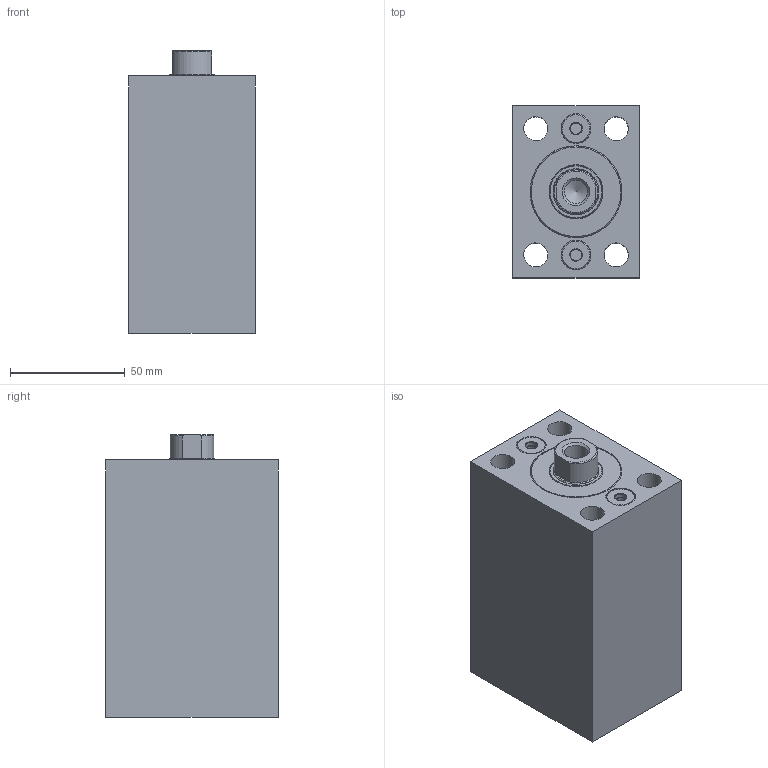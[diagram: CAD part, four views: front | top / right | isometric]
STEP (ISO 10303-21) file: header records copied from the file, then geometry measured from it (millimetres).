
FILE_DESCRIPTION( ( 'STEP AP203' ), '1' );
FILE_NAME( 'C:/Users/SAYKO.ltd/Desktop/SBZ100/07/SBZ100-32/SBZ100.32__FORM_07_STROKE_40__H2_47_POS_0_.stp', ' ', ( ' ' ), ( ' ' ), 'PSStep 15.0.47', 'PARTsolutions', ' ' );
FILE_SCHEMA( ( 'CONFIG_CONTROL_DESIGN' ) );
Length unit declared in the file: millimetre
Products named in the file (5): SBZ100.32  FORM=07 STROKE=40 (H2=47 POS=0); HI_SBZ10032  FORM=07 STROKE=40 H2=47 -C; HI_SBZ10032  FORM=07 STROKE=40-R; HI_SBZ100.32-C; HI_SBZ100.32-S
Assembly tree (4 placements, depth 2):
  SBZ100.32  FORM=07 STROKE=40 (H2=47 POS=0)
    HI_SBZ10032  FORM=07 STROKE=40 H2=47 -C
    HI_SBZ10032  FORM=07 STROKE=40-R
    HI_SBZ100.32-C
    HI_SBZ100.32-S
Bounding box: 55 x 75 x 123 mm (x, y, z)
Volume: 395424 mm3; surface area: 84411.5 mm2
Topology: 4 solids, 4 shells, 74 faces, 136 edges, 87 vertices
Faces by surface type: plane 33, cylinder 28, cone 10, torus 3
Full cylindrical faces by diameter (mm): 5 x4, 10.106 x1, 10.5 x4, 13 x2, 18 x4, 20 x4, 23.5 x1, 28 x2, 32 x2, 40 x2
Entity records: 3847 total; most frequent: CARTESIAN_POINT 2517, ORIENTED_EDGE 188, DIRECTION 178, EDGE_LOOP 140, FACE_OUTER_BOUND 101, EDGE_CURVE 94, VERTEX_POINT 83, AXIS2_PLACEMENT_3D 81
